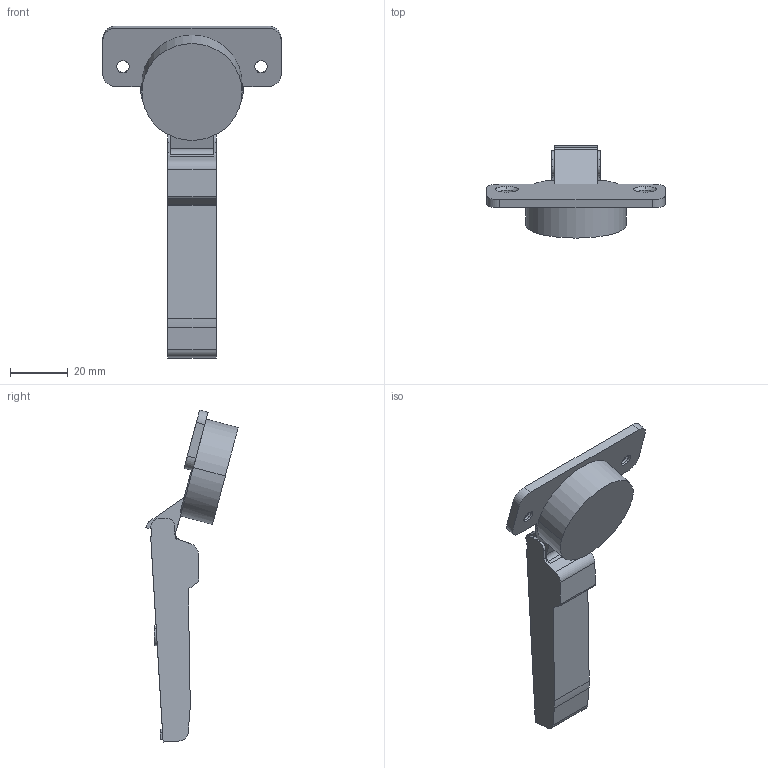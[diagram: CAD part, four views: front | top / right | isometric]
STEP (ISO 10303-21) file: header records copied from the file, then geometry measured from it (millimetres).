
FILE_DESCRIPTION (( 'STEP AP203' ), '1' );
FILE_NAME ('C82A276F-DTC 3D open.STEP', '2024-09-09T06:22:44', ( '微软用户' ), ( '微软中国' ), 'SwSTEP 2.0', 'SolidWorks 2021', '' );
FILE_SCHEMA (( 'CONFIG_CONTROL_DESIGN' ));
Length unit declared in the file: millimetre
Products named in the file (1): C82A276F-DTC 3D open
Bounding box: 61.96 x 32.07 x 115.37 mm (x, y, z)
Volume: 30540.5 mm3; surface area: 10228.4 mm2
Topology: 1 solids, 1 shells, 91 faces, 258 edges, 172 vertices
Faces by surface type: plane 45, cylinder 40, cone 4, bspline 2
Entity records: 3077 total; most frequent: CARTESIAN_POINT 563, DIRECTION 516, ORIENTED_EDGE 516, EDGE_CURVE 258, AXIS2_PLACEMENT_3D 177, VERTEX_POINT 172, LINE 162, VECTOR 162
